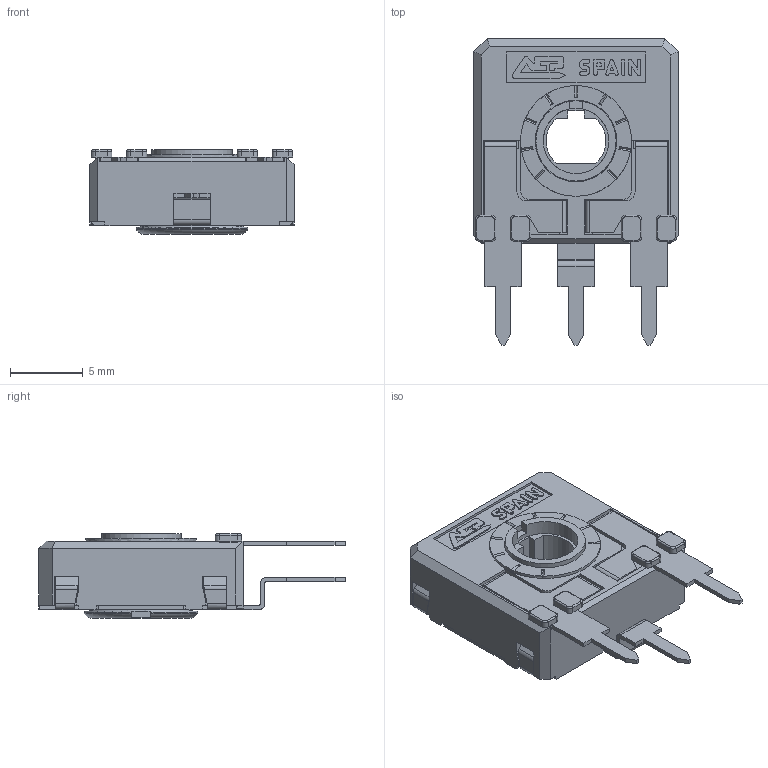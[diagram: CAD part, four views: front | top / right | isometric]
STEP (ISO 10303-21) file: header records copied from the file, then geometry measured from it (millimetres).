
FILE_DESCRIPTION(/* description */ (''),/* implementation_level */ '2;1');
FILE_NAME(/* name */ '\\SERVERACP\intercambio\Ignacio Santa Cecilia\Nueva WEB 2025\CA14 - CE14\CA14TH2,5.stp',/* time_stamp */ '2025-06-13T11:26:43+02:00',/* author */ ('CEM'),/* organization */ (''),/* preprocessor_version */ 'ST-DEVELOPER v17',/* originating_system */ 'Autodesk Inventor 2018',/* authorisation */ '');
FILE_SCHEMA (('AUTOMOTIVE_DESIGN { 1 0 10303 214 3 1 1 }'));
Length unit declared in the file: millimetre
Products named in the file (1): CA14NH2,5
Bounding box: 14 x 21 x 5.8 mm (x, y, z)
Volume: 529.7 mm3; surface area: 1463.8 mm2
Topology: 1 solids, 1 shells, 670 faces, 1893 edges, 1219 vertices
Faces by surface type: plane 498, cylinder 135, torus 23, bspline 8, cone 6
Full cylindrical faces by diameter (mm): 4.5 x1, 5.5 x1, 5.6 x1, 5.752 x1, 6.8 x1, 7.6 x1
Entity records: 21884 total; most frequent: CARTESIAN_POINT 4080, ORIENTED_EDGE 3786, DIRECTION 3529, EDGE_CURVE 1893, LINE 1493, VECTOR 1493, VERTEX_POINT 1219, AXIS2_PLACEMENT_3D 1018
